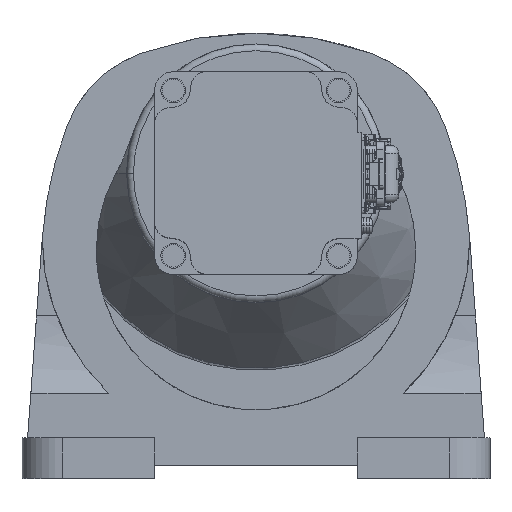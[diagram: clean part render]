
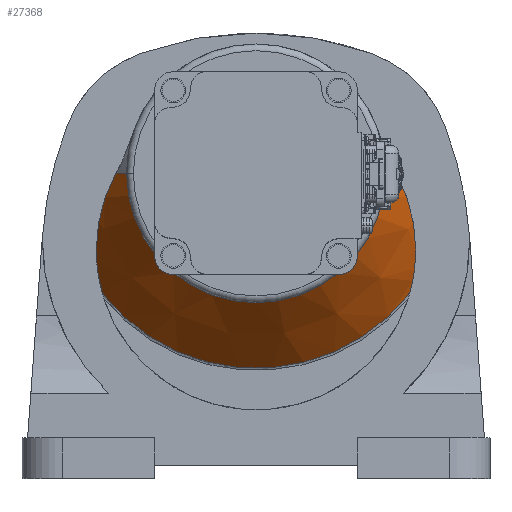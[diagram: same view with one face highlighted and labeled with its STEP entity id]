
A CAD part, top view. The second image highlights one B-rep face of the part: STEP entity #27368.
In plain terms, the highlighted conical face has half-angle 37.011 degrees and reference radius 86.9 mm.
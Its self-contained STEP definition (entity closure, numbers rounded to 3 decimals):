
#207 = CARTESIAN_POINT ( 'NONE',  ( -70.988, 103.005, -88.786 ) ) ;
#363 = CARTESIAN_POINT ( 'NONE',  ( -63.695, 132.903, -69.77 ) ) ;
#487 = CARTESIAN_POINT ( 'NONE',  ( 64.964, 130.296, -71.61 ) ) ;
#1102 = ORIENTED_EDGE ( 'NONE', *, *, #44629, .F. ) ;
#2108 = CARTESIAN_POINT ( 'NONE',  ( -57.5, 135.5, -61.5 ) ) ;
#3351 = ORIENTED_EDGE ( 'NONE', *, *, #23205, .T. ) ;
#3495 = VERTEX_POINT ( 'NONE', #38901 ) ;
#3692 = EDGE_CURVE ( 'NONE', #10099, #33551, #34991, .T. ) ;
#3753 = CARTESIAN_POINT ( 'NONE',  ( -70.904, 105.262, -87.473 ) ) ;
#3911 = CARTESIAN_POINT ( 'NONE',  ( -62.33, 135.5, -67.907 ) ) ;
#4021 = CARTESIAN_POINT ( 'NONE',  ( 68.026, 122.051, -77.143 ) ) ;
#4270 = VERTEX_POINT ( 'NONE', #41483 ) ;
#4370 = CARTESIAN_POINT ( 'NONE',  ( 70.794, 95.212, -93.207 ) ) ;
#5868 = VERTEX_POINT ( 'NONE', #38527 ) ;
#6057 = B_SPLINE_CURVE_WITH_KNOTS ( 'NONE', 3,
 ( #17965, #21539, #487, #25055, #4021, #28572, #7559, #32130, #11065, #35705, #14599, #39285, #18121, #42862 ),
 .UNSPECIFIED., .F., .F.,
 ( 4, 2, 2, 2, 2, 2, 4 ),
 ( 0.012, 0.022, 0.033, 0.035, 0.038, 0.043, 0.053 ),
 .UNSPECIFIED. ) ;
#6510 = VERTEX_POINT ( 'NONE', #18312 ) ;
#7296 = CARTESIAN_POINT ( 'NONE',  ( -70.618, 109.001, -85.265 ) ) ;
#7559 = CARTESIAN_POINT ( 'NONE',  ( 69.126, 117.721, -79.903 ) ) ;
#7889 = CARTESIAN_POINT ( 'NONE',  ( 69.881, 88.84, -96.671 ) ) ;
#7931 = AXIS2_PLACEMENT_3D ( 'NONE', #36342, #39949, #29223 ) ;
#8184 = B_SPLINE_CURVE_WITH_KNOTS ( 'NONE', 3,
 ( #29666, #22611, #15665, #40391, #19215, #43953 ),
 .UNSPECIFIED., .F., .F.,
 ( 4, 2, 4 ),
 ( 0.001, 0.012, 0.023 ),
 .UNSPECIFIED. ) ;
#8704 = CARTESIAN_POINT ( 'NONE',  ( 62.33, 135.5, -67.907 ) ) ;
#9330 = DIRECTION ( 'NONE',  ( 0., 0., -1. ) ) ;
#10099 = VERTEX_POINT ( 'NONE', #24592 ) ;
#10223 = DIRECTION ( 'NONE',  ( 0., 0., -1. ) ) ;
#10452 = ORIENTED_EDGE ( 'NONE', *, *, #26408, .F. ) ;
#10490 = CARTESIAN_POINT ( 'NONE',  ( -71., 101.5, -89.65 ) ) ;
#10797 = CARTESIAN_POINT ( 'NONE',  ( -69.499, 116.317, -80.802 ) ) ;
#11021 = VECTOR ( 'NONE', #36304, 1000. ) ;
#11065 = CARTESIAN_POINT ( 'NONE',  ( 69.602, 115.54, -81.271 ) ) ;
#11404 = CARTESIAN_POINT ( 'NONE',  ( 68.848, 84.075, -99.2 ) ) ;
#11664 = CARTESIAN_POINT ( 'NONE',  ( -86.9, 135.5, -100.5 ) ) ;
#11988 = CARTESIAN_POINT ( 'NONE',  ( 86.9, 135.5, -100.5 ) ) ;
#12409 = LINE ( 'NONE', #11988, #30002 ) ;
#13384 = B_SPLINE_CURVE_WITH_KNOTS ( 'NONE', 3,
 ( #17697, #38864, #207, #24789, #3753, #28301, #7296, #31867, #10797, #35427, #14328, #39015, #17847, #42600, #21419, #363, #24935, #3911 ),
 .UNSPECIFIED., .F., .F.,
 ( 4, 2, 2, 2, 2, 2, 2, 2, 4 ),
 ( 0.023, 0.025, 0.028, 0.033, 0.044, 0.054, 0.056, 0.059, 0.064 ),
 .UNSPECIFIED. ) ;
#14328 = CARTESIAN_POINT ( 'NONE',  ( -67.138, 124.785, -75.347 ) ) ;
#14599 = CARTESIAN_POINT ( 'NONE',  ( 70.252, 111.885, -83.525 ) ) ;
#14642 = EDGE_CURVE ( 'NONE', #6510, #34691, #34394, .T. ) ;
#15019 = CIRCLE ( 'NONE', #23402, 86.54 ) ;
#15504 = DIRECTION ( 'NONE',  ( 0.602, 0., -0.799 ) ) ;
#15665 = CARTESIAN_POINT ( 'NONE',  ( -69.933, 88.825, -96.689 ) ) ;
#17053 = CIRCLE ( 'NONE', #26580, 57.5 ) ;
#17697 = CARTESIAN_POINT ( 'NONE',  ( -71., 101.5, -89.65 ) ) ;
#17725 = EDGE_CURVE ( 'NONE', #3495, #24600, #8184, .T. ) ;
#17847 = CARTESIAN_POINT ( 'NONE',  ( -65.513, 128.879, -72.568 ) ) ;
#17965 = CARTESIAN_POINT ( 'NONE',  ( 62.33, 135.5, -67.907 ) ) ;
#18121 = CARTESIAN_POINT ( 'NONE',  ( 71., 104.495, -87.934 ) ) ;
#18281 = VERTEX_POINT ( 'NONE', #8704 ) ;
#18312 = CARTESIAN_POINT ( 'NONE',  ( 71., 101.5, -89.65 ) ) ;
#19215 = CARTESIAN_POINT ( 'NONE',  ( -71., 98.331, -91.466 ) ) ;
#19216 = EDGE_LOOP ( 'NONE', ( #10452, #45154, #25304, #3351, #1102, #37167, #32198, #34430, #30588 ) ) ;
#19573 = CONICAL_SURFACE ( 'NONE', #7931, 86.9, 0.646 ) ;
#20730 = DIRECTION ( 'NONE',  ( 0., 0., 1. ) ) ;
#21419 = CARTESIAN_POINT ( 'NONE',  ( -64.629, 130.904, -71.17 ) ) ;
#21539 = CARTESIAN_POINT ( 'NONE',  ( 63.728, 132.938, -69.761 ) ) ;
#21875 = CARTESIAN_POINT ( 'NONE',  ( 71., 101.5, -89.65 ) ) ;
#22611 = CARTESIAN_POINT ( 'NONE',  ( -69.288, 85.658, -98.375 ) ) ;
#23205 = EDGE_CURVE ( 'NONE', #33551, #5868, #38047, .T. ) ;
#23335 = EDGE_CURVE ( 'NONE', #4270, #10099, #17053, .T. ) ;
#23402 = AXIS2_PLACEMENT_3D ( 'NONE', #41928, #20730, #45500 ) ;
#24403 = CARTESIAN_POINT ( 'NONE',  ( 68.41, 82.498, -100.022 ) ) ;
#24592 = CARTESIAN_POINT ( 'NONE',  ( 0., 78., -61.5 ) ) ;
#24600 = VERTEX_POINT ( 'NONE', #10490 ) ;
#24789 = CARTESIAN_POINT ( 'NONE',  ( -70.94, 104.509, -87.913 ) ) ;
#24935 = CARTESIAN_POINT ( 'NONE',  ( -63.032, 134.213, -68.838 ) ) ;
#25055 = CARTESIAN_POINT ( 'NONE',  ( 67.114, 124.852, -75.301 ) ) ;
#25304 = ORIENTED_EDGE ( 'NONE', *, *, #3692, .T. ) ;
#26408 = EDGE_CURVE ( 'NONE', #4270, #18281, #12409, .T. ) ;
#26580 = AXIS2_PLACEMENT_3D ( 'NONE', #30368, #9330, #33957 ) ;
#27368 = ADVANCED_FACE ( 'NONE', ( #31139 ), #19573, .T. ) ;
#27939 = EDGE_CURVE ( 'NONE', #18281, #6510, #6057, .T. ) ;
#28301 = CARTESIAN_POINT ( 'NONE',  ( -70.761, 107.513, -86.15 ) ) ;
#28572 = CARTESIAN_POINT ( 'NONE',  ( 68.952, 118.447, -79.443 ) ) ;
#28913 = CARTESIAN_POINT ( 'NONE',  ( 70.152, 90.44, -95.809 ) ) ;
#29223 = DIRECTION ( 'NONE',  ( -1., 0., 0. ) ) ;
#29666 = CARTESIAN_POINT ( 'NONE',  ( -68.41, 82.498, -100.022 ) ) ;
#30002 = VECTOR ( 'NONE', #15504, 1000. ) ;
#30368 = CARTESIAN_POINT ( 'NONE',  ( 0., 135.5, -61.5 ) ) ;
#30588 = ORIENTED_EDGE ( 'NONE', *, *, #27939, .F. ) ;
#31139 = FACE_OUTER_BOUND ( 'NONE', #19216, .T. ) ;
#31273 = CARTESIAN_POINT ( 'NONE',  ( 0., 135.5, -61.5 ) ) ;
#31867 = CARTESIAN_POINT ( 'NONE',  ( -70.055, 113.422, -82.597 ) ) ;
#32130 = CARTESIAN_POINT ( 'NONE',  ( 69.451, 116.268, -80.816 ) ) ;
#32198 = ORIENTED_EDGE ( 'NONE', *, *, #39112, .T. ) ;
#32493 = CARTESIAN_POINT ( 'NONE',  ( 69.23, 85.66, -98.366 ) ) ;
#33551 = VERTEX_POINT ( 'NONE', #2108 ) ;
#33957 = DIRECTION ( 'NONE',  ( 0., 1., 0. ) ) ;
#34394 = B_SPLINE_CURVE_WITH_KNOTS ( 'NONE', 3,
 ( #21875, #43061, #4370, #28913, #7889, #32493, #11404, #36038 ),
 .UNSPECIFIED., .F., .F.,
 ( 4, 2, 2, 4 ),
 ( 0.053, 0.064, 0.07, 0.075 ),
 .UNSPECIFIED. ) ;
#34430 = ORIENTED_EDGE ( 'NONE', *, *, #14642, .F. ) ;
#34691 = VERTEX_POINT ( 'NONE', #24403 ) ;
#34852 = DIRECTION ( 'NONE',  ( 0., 1., 0. ) ) ;
#34991 = CIRCLE ( 'NONE', #40118, 57.5 ) ;
#35427 = CARTESIAN_POINT ( 'NONE',  ( -68.04, 121.998, -77.177 ) ) ;
#35705 = CARTESIAN_POINT ( 'NONE',  ( 70.02, 113.351, -82.628 ) ) ;
#36038 = CARTESIAN_POINT ( 'NONE',  ( 68.41, 82.498, -100.022 ) ) ;
#36304 = DIRECTION ( 'NONE',  ( -0.602, 0., -0.799 ) ) ;
#36342 = CARTESIAN_POINT ( 'NONE',  ( 0., 135.5, -100.5 ) ) ;
#37167 = ORIENTED_EDGE ( 'NONE', *, *, #17725, .F. ) ;
#38047 = LINE ( 'NONE', #11664, #11021 ) ;
#38527 = CARTESIAN_POINT ( 'NONE',  ( -62.33, 135.5, -67.907 ) ) ;
#38864 = CARTESIAN_POINT ( 'NONE',  ( -71., 102.252, -89.219 ) ) ;
#38901 = CARTESIAN_POINT ( 'NONE',  ( -68.41, 82.498, -100.022 ) ) ;
#39015 = CARTESIAN_POINT ( 'NONE',  ( -65.793, 128.199, -73.032 ) ) ;
#39112 = EDGE_CURVE ( 'NONE', #3495, #34691, #15019, .T. ) ;
#39285 = CARTESIAN_POINT ( 'NONE',  ( 70.811, 107.466, -86.19 ) ) ;
#39949 = DIRECTION ( 'NONE',  ( 0., 0., -1. ) ) ;
#40118 = AXIS2_PLACEMENT_3D ( 'NONE', #31273, #10223, #34852 ) ;
#40391 = CARTESIAN_POINT ( 'NONE',  ( -70.789, 95.161, -93.235 ) ) ;
#41483 = CARTESIAN_POINT ( 'NONE',  ( 57.5, 135.5, -61.5 ) ) ;
#41928 = CARTESIAN_POINT ( 'NONE',  ( 0., 135.5, -100.022 ) ) ;
#42600 = CARTESIAN_POINT ( 'NONE',  ( -64.931, 130.231, -71.637 ) ) ;
#42862 = CARTESIAN_POINT ( 'NONE',  ( 71., 101.5, -89.65 ) ) ;
#43061 = CARTESIAN_POINT ( 'NONE',  ( 71., 98.369, -91.444 ) ) ;
#43953 = CARTESIAN_POINT ( 'NONE',  ( -71., 101.5, -89.65 ) ) ;
#44629 = EDGE_CURVE ( 'NONE', #24600, #5868, #13384, .T. ) ;
#45154 = ORIENTED_EDGE ( 'NONE', *, *, #23335, .T. ) ;
#45500 = DIRECTION ( 'NONE',  ( -1., 0., 0. ) ) ;
